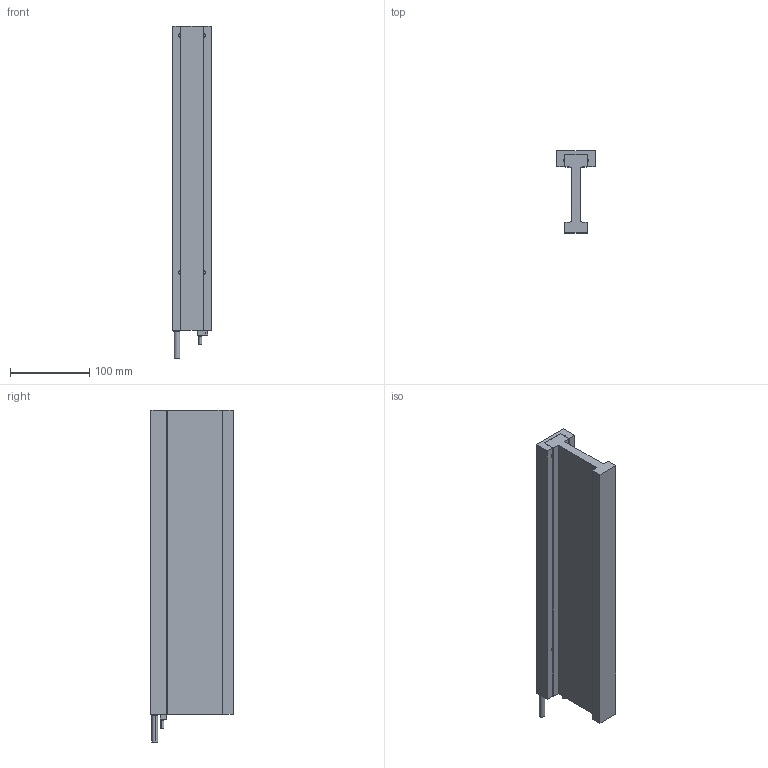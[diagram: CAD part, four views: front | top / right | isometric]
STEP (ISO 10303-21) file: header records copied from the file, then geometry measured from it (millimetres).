
FILE_DESCRIPTION (( 'STEP AP214' ), '1' );
FILE_NAME ('DX65F-C6.step', '2022-09-22T03:37:37', ( '' ), ( '' ), 'SwSTEP 2.0', 'SolidWorks 2020', '' );
FILE_SCHEMA (( 'AUTOMOTIVE_DESIGN' ));
Length unit declared in the file: millimetre
Products named in the file (1): DX65F-C6
Bounding box: 49 x 104 x 420 mm (x, y, z)
Volume: 814921 mm3; surface area: 184371.5 mm2
Topology: 7 solids, 7 shells, 228 faces, 557 edges, 330 vertices
Faces by surface type: plane 96, cylinder 79, cone 44, torus 8, bspline 1
Entity records: 9269 total; most frequent: CARTESIAN_POINT 1376, DIRECTION 1146, ORIENTED_EDGE 1042, EDGE_CURVE 521, AXIS2_PLACEMENT_3D 410, VERTEX_POINT 330, LINE 326, VECTOR 326
